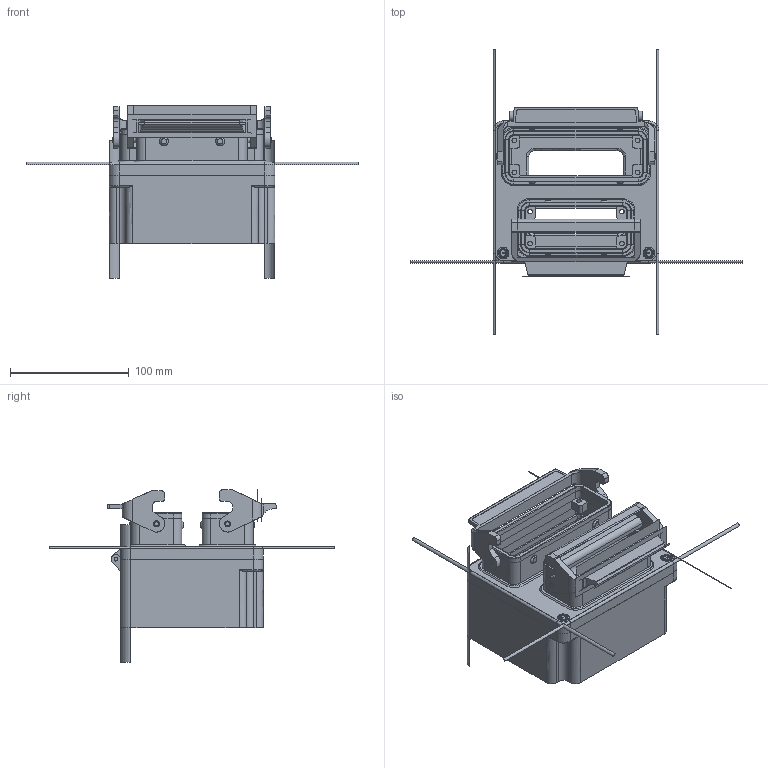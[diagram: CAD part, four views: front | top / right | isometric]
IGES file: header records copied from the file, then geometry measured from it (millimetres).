
Start section: Cimatron Iges convertor
Global section: file name: I:\k-box\cimatron\groesse_3\gr_3_24e_16e-bb.igs; native system: prt/Cimatron V13.10; preprocessor: Cimatron IGES (V5.3) Convertor V5.0.6.0; author: NONE; organization: NONE; date: 060821.193547; units: millimetre
Bounding box: 280.08 x 240.08 x 145.77 mm (x, y, z)
Surface area: 207751 mm2 (no closed solid volume)
Topology: 0 solids, 0 shells, 1146 faces, 6005 edges, 6211 vertices
Faces by surface type: bspline 769, extrusion 249, revolution 128
